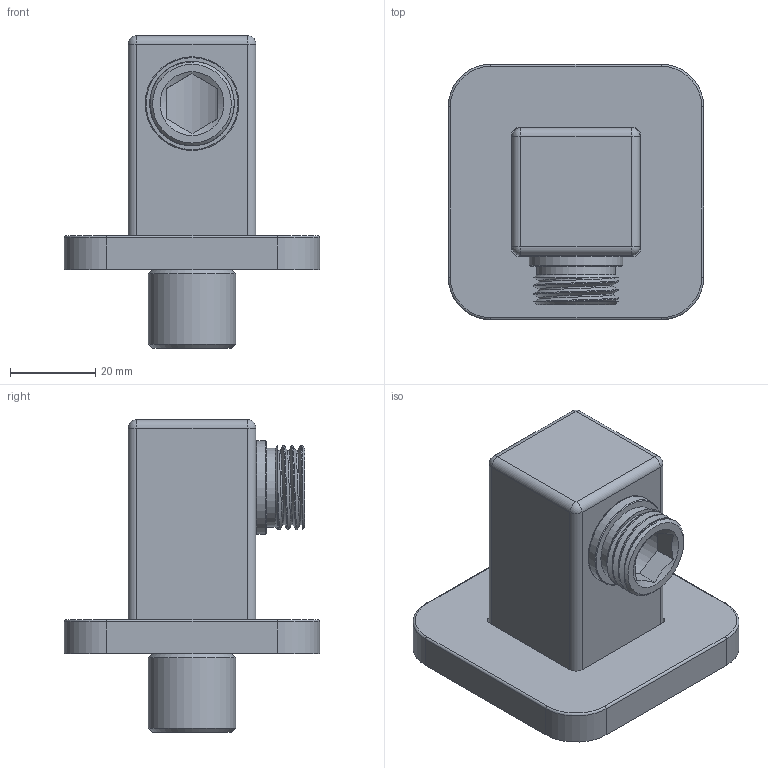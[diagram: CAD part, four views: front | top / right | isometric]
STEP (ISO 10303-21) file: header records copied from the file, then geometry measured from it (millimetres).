
FILE_DESCRIPTION(/* description */ (''),/* implementation_level */ '2;1');
FILE_NAME(/* name */ 'c:\worker\convert-fusion-r09\tmp\job-1\53\output\files\b9771bbd-5756-4730-b46a-aa5be3675efc\68a756c4-39a3-4d50-8bf4-c15ec5200b7f.stp',/* time_stamp */ '2019-12-14T15:52:28+00:00',/* author */ (''),/* organization */ (''),/* preprocessor_version */ 'ST-DEVELOPER v18',/* originating_system */ 'Autodesk Translation Framework v8.12.0.6',/* authorisation */ '');
FILE_SCHEMA (('AUTOMOTIVE_DESIGN { 1 0 10303 214 3 1 1 }'));
Length unit declared in the file: millimetre
Products named in the file (1): !8815-B
Bounding box: 60 x 60 x 73.5 mm (x, y, z)
Volume: 42235.5 mm3; surface area: 31382.7 mm2
Topology: 11 solids, 11 shells, 246 faces, 645 edges, 438 vertices
Faces by surface type: plane 129, cylinder 68, cone 33, torus 10, sphere 4, bspline 2
Full cylindrical faces by diameter (mm): 2.5 x4, 3 x4, 3.5 x4, 15 x1, 15.5 x1, 16.5 x2, 17.534 x3, 18 x1, 18.5 x2, 19 x1, 19.5 x1, 19.822 x2, 20 x1, 20.6 x1, 21 x1, 22 x2, 27 x1
Entity records: 8914 total; most frequent: CARTESIAN_POINT 2567, DIRECTION 1359, ORIENTED_EDGE 1290, EDGE_CURVE 645, AXIS2_PLACEMENT_3D 504, VERTEX_POINT 438, LINE 351, VECTOR 351
